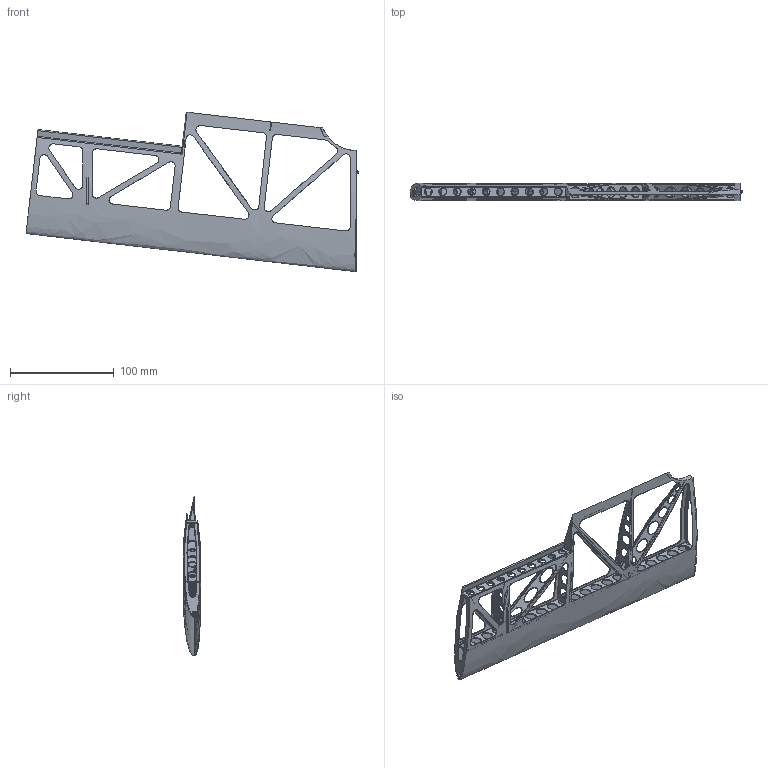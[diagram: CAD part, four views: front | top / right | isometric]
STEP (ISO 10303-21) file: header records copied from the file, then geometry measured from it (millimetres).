
FILE_DESCRIPTION (( 'STEP AP203' ), '1' );
FILE_NAME ('Mirror06-12-03-00-Upper Wing(NASA-0413).STEP', '2019-02-25T09:12:43', ( '' ), ( '' ), 'SwSTEP 2.0', 'SolidWorks 2014', '' );
FILE_SCHEMA (( 'CONFIG_CONTROL_DESIGN' ));
Length unit declared in the file: millimetre
Products named in the file (1): Mirror06-12-03-00-Upper Wing(NASA-0413)
Bounding box: 320.16 x 17.04 x 153.78 mm (x, y, z)
Volume: 38295 mm3; surface area: 98962.1 mm2
Topology: 1 solids, 2 shells, 970 faces, 2395 edges, 1398 vertices
Faces by surface type: bspline 350, cylinder 239, torus 226, plane 112, sphere 42, cone 1
Entity records: 49928 total; most frequent: CARTESIAN_POINT 29325, ORIENTED_EDGE 4740, DIRECTION 3792, EDGE_CURVE 2370, AXIS2_PLACEMENT_3D 1669, VERTEX_POINT 1396, EDGE_LOOP 1132, CIRCLE 1048
